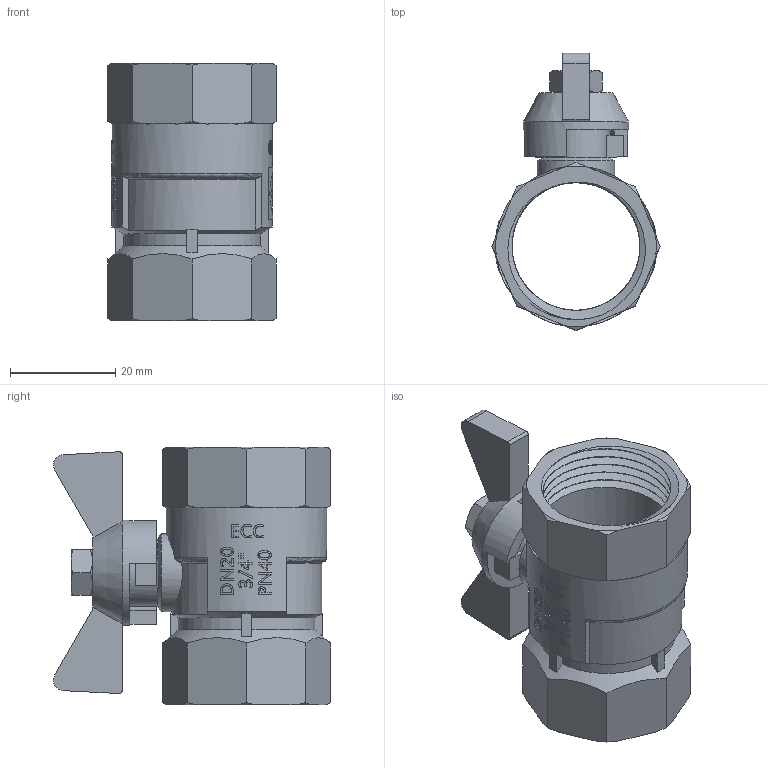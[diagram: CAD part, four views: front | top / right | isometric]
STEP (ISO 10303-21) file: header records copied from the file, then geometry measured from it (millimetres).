
FILE_DESCRIPTION(/* description */ (''),/* implementation_level */ '2;1');
FILE_NAME(/* name */ 'H:\Мишенин_3D\Исходные файлы 3D\VT.092.N.05.stp',/* time_stamp */ '2018-01-17T10:51:31+03:00',/* author */ ('MisheninAL'),/* organization */ (''),/* preprocessor_version */ 'ST-DEVELOPER v16.13',/* originating_system */ 'Autodesk Inventor 2018',/* authorisation */ '');
FILE_SCHEMA (('AUTOMOTIVE_DESIGN { 1 0 10303 214 3 1 1 }'));
Length unit declared in the file: millimetre
Products named in the file (1): VT.090_ВB_3%4
Bounding box: 31.93 x 52.65 x 49 mm (x, y, z)
Volume: 15186.8 mm3; surface area: 13485.8 mm2
Topology: 1 solids, 1 shells, 426 faces, 1150 edges, 756 vertices
Faces by surface type: plane 189, bspline 121, cylinder 63, cone 50, torus 3
Full cylindrical faces by diameter (mm): 12.772 x1, 14.772 x1, 20 x1, 24.3 x9, 30.5 x1
Entity records: 19786 total; most frequent: CARTESIAN_POINT 10264, ORIENTED_EDGE 2210, DIRECTION 1613, EDGE_CURVE 1105, VERTEX_POINT 729, AXIS2_PLACEMENT_3D 546, LINE 521, VECTOR 521
